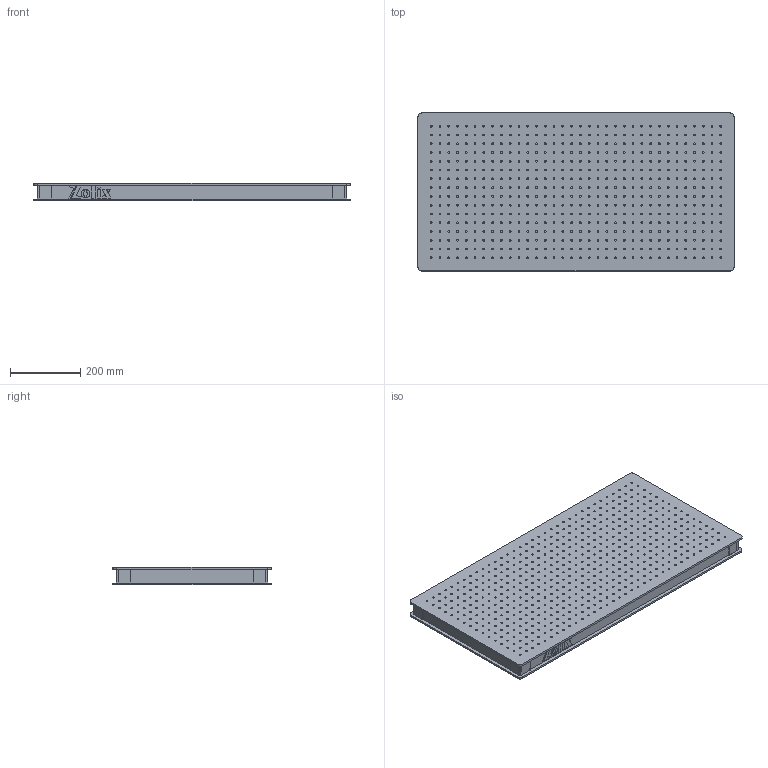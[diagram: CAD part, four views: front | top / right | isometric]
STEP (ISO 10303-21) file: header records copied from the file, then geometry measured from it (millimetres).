
FILE_DESCRIPTION (( 'STEP AP203' ), '1' );
FILE_NAME ('OTBB459-50 怢醱.STEP', '2019-05-09T08:33:11', ( 'User' ), ( 'User' ), 'SwSTEP 2.0', 'SolidWorks 2016', '' );
FILE_SCHEMA (( 'CONFIG_CONTROL_DESIGN' ));
Length unit declared in the file: millimetre
Products named in the file (1): OTBB459-50 怢醱
Bounding box: 900 x 450 x 50 mm (x, y, z)
Surface area: 1795531.3 mm2 (no closed solid volume)
Topology: 0 solids, 30 shells, 1160 faces, 3696 edges, 2568 vertices
Faces by surface type: cylinder 1100, plane 60
Entity records: 44418 total; most frequent: DIRECTION 8218, CARTESIAN_POINT 7425, ORIENTED_EDGE 7032, EDGE_CURVE 3696, AXIS2_PLACEMENT_3D 3361, VERTEX_POINT 2568, EDGE_LOOP 2248, CIRCLE 2200
